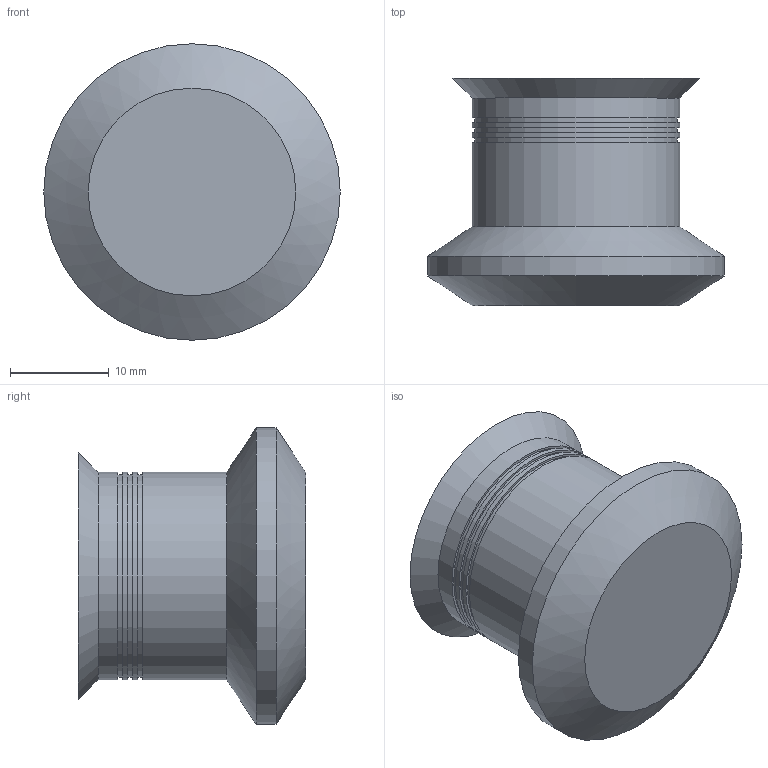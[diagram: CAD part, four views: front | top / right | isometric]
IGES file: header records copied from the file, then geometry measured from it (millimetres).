
Start section: Data from Parasolid IGES Translator 15.0.47, Copyright(c) 2006 Siemens P LM Software. All Rights Reserved.
Global section: file name: 9070580.igs; native system:  By UGS Corp.; preprocessor: XPlus GENERIC/IGES 3.0; author: Noname; organization: Noname; date: 20140122.174201; units: millimetre
Bounding box: 30 x 23 x 30 mm (x, y, z)
Surface area: 3175.4 mm2 (no closed solid volume)
Topology: 0 solids, 0 shells, 21 faces, 68 edges, 48 vertices
Faces by surface type: revolution 12, extrusion 9
